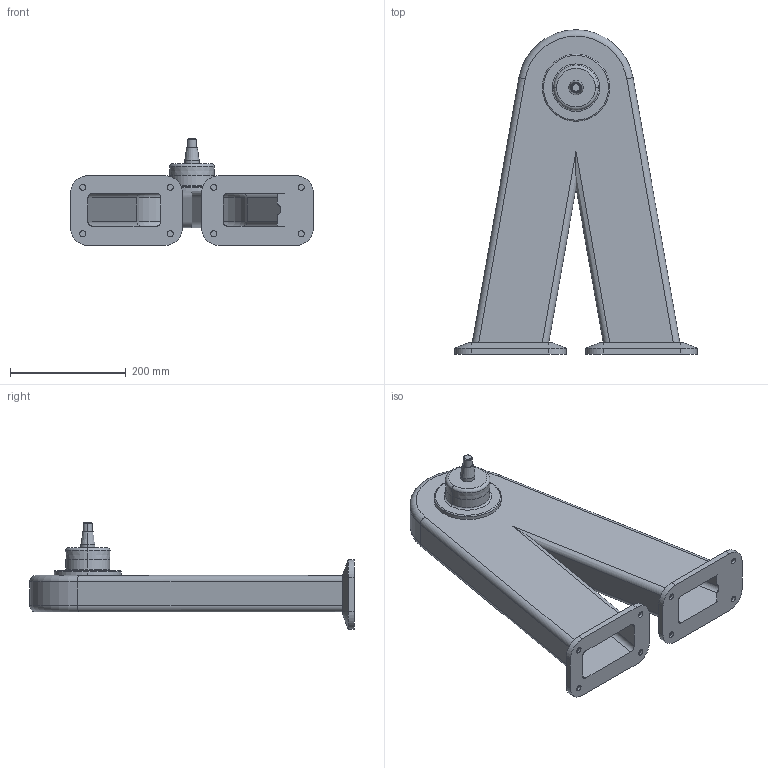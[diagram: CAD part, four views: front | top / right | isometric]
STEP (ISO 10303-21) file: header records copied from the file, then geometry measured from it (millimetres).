
FILE_DESCRIPTION (( 'STEP AP214' ), '1' );
FILE_NAME ('WP850_H460.STEP', '2014-09-08T12:55:57', ( '' ), ( '' ), 'SwSTEP 2.0', 'SolidWorks 2014', '' );
FILE_SCHEMA (( 'AUTOMOTIVE_DESIGN' ));
Length unit declared in the file: millimetre
Products named in the file (1): WP850_H460
Bounding box: 419.25 x 560 x 183.98 mm (x, y, z)
Volume: 1753446.8 mm3; surface area: 780077.1 mm2
Topology: 1 solids, 1 shells, 152 faces, 347 edges, 218 vertices
Faces by surface type: cylinder 76, plane 52, cone 14, torus 10
Entity records: 4347 total; most frequent: DIRECTION 791, CARTESIAN_POINT 778, ORIENTED_EDGE 694, EDGE_CURVE 347, AXIS2_PLACEMENT_3D 311, VERTEX_POINT 218, EDGE_LOOP 185, LINE 169
